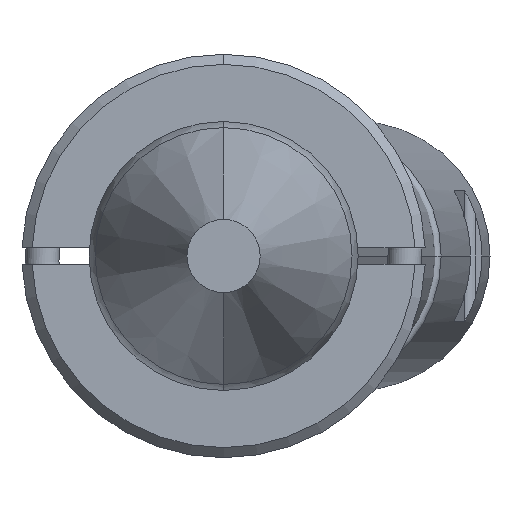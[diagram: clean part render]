
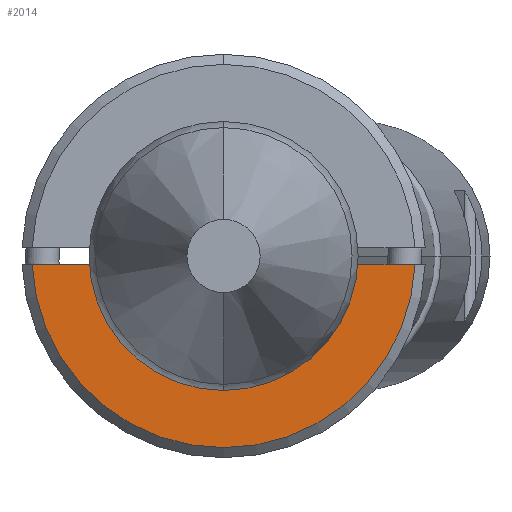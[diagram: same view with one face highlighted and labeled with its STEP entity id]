
A CAD part, front view. The second image highlights one B-rep face of the part: STEP entity #2014.
In plain terms, the highlighted planar face has unit normal (0, -1, 0).
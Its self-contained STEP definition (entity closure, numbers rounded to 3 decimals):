
#10 = LINE ( 'NONE', #3781, #3057 ) ;
#139 = CIRCLE ( 'NONE', #1043, 3.2 ) ;
#192 = DIRECTION ( 'NONE',  ( 0., 0., -1. ) ) ;
#281 = VERTEX_POINT ( 'NONE', #3421 ) ;
#286 = AXIS2_PLACEMENT_3D ( 'NONE', #1983, #719, #3240 ) ;
#319 = CARTESIAN_POINT ( 'NONE',  ( 3.19, -6., -0.25 ) ) ;
#629 = DIRECTION ( 'NONE',  ( 1., 0., 0. ) ) ;
#648 = LINE ( 'NONE', #1846, #2815 ) ;
#674 = DIRECTION ( 'NONE',  ( 0., 0., -1. ) ) ;
#719 = DIRECTION ( 'NONE',  ( 0., -1., 0. ) ) ;
#924 = EDGE_CURVE ( 'NONE', #1668, #281, #2174, .T. ) ;
#1043 = AXIS2_PLACEMENT_3D ( 'NONE', #2235, #3446, #674 ) ;
#1076 = FACE_OUTER_BOUND ( 'NONE', #1794, .T. ) ;
#1129 = EDGE_CURVE ( 'NONE', #2220, #1363, #139, .T. ) ;
#1150 = DIRECTION ( 'NONE',  ( 0., 1., 0. ) ) ;
#1363 = VERTEX_POINT ( 'NONE', #1495 ) ;
#1400 = DIRECTION ( 'NONE',  ( 0., 0., -1. ) ) ;
#1421 = CARTESIAN_POINT ( 'NONE',  ( 0., -6., 0. ) ) ;
#1495 = CARTESIAN_POINT ( 'NONE',  ( -3.19, -6., -0.25 ) ) ;
#1582 = CIRCLE ( 'NONE', #4032, 3.2 ) ;
#1668 = VERTEX_POINT ( 'NONE', #1866 ) ;
#1794 = EDGE_LOOP ( 'NONE', ( #2131, #3815, #3601, #2638, #3560 ) ) ;
#1846 = CARTESIAN_POINT ( 'NONE',  ( -6., -6., -0.25 ) ) ;
#1859 = DIRECTION ( 'NONE',  ( 1., 0., 0. ) ) ;
#1866 = CARTESIAN_POINT ( 'NONE',  ( -5.695, -6., -0.25 ) ) ;
#1983 = CARTESIAN_POINT ( 'NONE',  ( -6., -6., 0. ) ) ;
#2014 = ADVANCED_FACE ( 'NONE', ( #1076 ), #3558, .T. ) ;
#2045 = CARTESIAN_POINT ( 'NONE',  ( 0., -6., 0. ) ) ;
#2131 = ORIENTED_EDGE ( 'NONE', *, *, #2250, .F. ) ;
#2174 = CIRCLE ( 'NONE', #3899, 5.7 ) ;
#2220 = VERTEX_POINT ( 'NONE', #2840 ) ;
#2235 = CARTESIAN_POINT ( 'NONE',  ( 0., -6., 0. ) ) ;
#2250 = EDGE_CURVE ( 'NONE', #1668, #1363, #10, .T. ) ;
#2427 = EDGE_CURVE ( 'NONE', #2932, #2220, #1582, .T. ) ;
#2638 = ORIENTED_EDGE ( 'NONE', *, *, #2427, .T. ) ;
#2724 = DIRECTION ( 'NONE',  ( 0., -1., 0. ) ) ;
#2815 = VECTOR ( 'NONE', #629, 1000. ) ;
#2840 = CARTESIAN_POINT ( 'NONE',  ( 0., -6., -3.2 ) ) ;
#2932 = VERTEX_POINT ( 'NONE', #319 ) ;
#3057 = VECTOR ( 'NONE', #1859, 1000. ) ;
#3240 = DIRECTION ( 'NONE',  ( 0., 0., -1. ) ) ;
#3421 = CARTESIAN_POINT ( 'NONE',  ( 5.695, -6., -0.25 ) ) ;
#3446 = DIRECTION ( 'NONE',  ( 0., 1., 0. ) ) ;
#3558 = PLANE ( 'NONE',  #286 ) ;
#3560 = ORIENTED_EDGE ( 'NONE', *, *, #1129, .T. ) ;
#3601 = ORIENTED_EDGE ( 'NONE', *, *, #3708, .F. ) ;
#3708 = EDGE_CURVE ( 'NONE', #2932, #281, #648, .T. ) ;
#3781 = CARTESIAN_POINT ( 'NONE',  ( -6., -6., -0.25 ) ) ;
#3815 = ORIENTED_EDGE ( 'NONE', *, *, #924, .T. ) ;
#3899 = AXIS2_PLACEMENT_3D ( 'NONE', #1421, #2724, #192 ) ;
#4032 = AXIS2_PLACEMENT_3D ( 'NONE', #2045, #1150, #1400 ) ;
